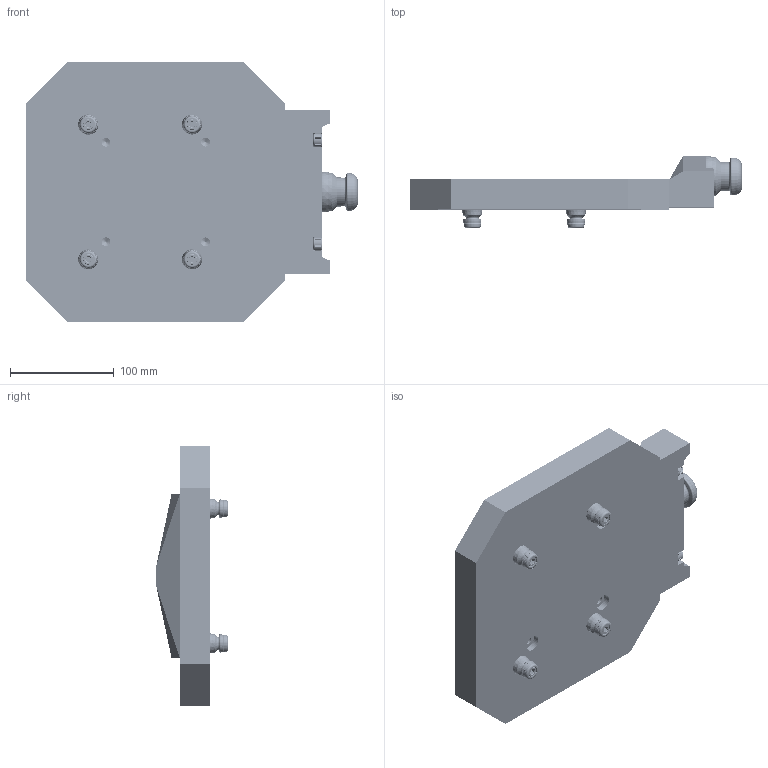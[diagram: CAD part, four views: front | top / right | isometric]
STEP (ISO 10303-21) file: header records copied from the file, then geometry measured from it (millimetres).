
FILE_DESCRIPTION (( 'STEP AP214' ), '1' );
FILE_NAME ('BPA-DN250 WEBSITE.STEP', '2026-08-31T16:53:40', ( '' ), ( '' ), 'SwSTEP 2.0', 'SolidWorks 2024', '' );
FILE_SCHEMA (( 'AUTOMOTIVE_DESIGN' ));
Length unit declared in the file: inch
Products named in the file (11): M10x020.DP_91595A640; 5AX-DNAWC-C; XSPA-40-16; M8X40.SHCS.12.9.BL_M8X40.SHCS.12.9.BL; XSPC-MINI-20; XSPA-MINI-20; BP-1DN250A; XSPB-MINI-20; BPA-DN250 WEBSITE; HW.M16X40.FTSS_HW.M16X40.FTSS; 76176_76176
Assembly tree (20 placements, depth 2):
  BPA-DN250 WEBSITE
    BP-1DN250A
    M8X40.SHCS.12.9.BL_M8X40.SHCS.12.9.BL  x6
    M10x020.DP_91595A640  x2
    HW.M16X40.FTSS_HW.M16X40.FTSS
    5AX-DNAWC-C
    XSPA-40-16
    XSPC-MINI-20  x2
    XSPB-MINI-20
    XSPA-MINI-20
    76176_76176  x4
Bounding box: 320 x 69.25 x 250 mm (x, y, z)
Volume: 1974516.1 mm3; surface area: 227559.8 mm2
Topology: 20 solids, 20 shells, 3676 faces, 10527 edges, 6940 vertices
Faces by surface type: plane 1230, cylinder 1204, torus 1053, cone 149, bspline 36, sphere 4
Full cylindrical faces by diameter (mm): 5 x4, 6.8 x10, 8 x132, 8.2 x4, 8.271 x6, 8.5 x4, 9 x6, 10 x6, 10.025 x2, 10.075 x2, 10.5 x4, 12 x4, 12.007 x4, 12.6 x6, 14 x5, 14.326 x11, 16.02 x4, 17.221 x1, 17.5 x4, 18.618 x1, 25 x1, 25.057 x1, 28 x1, 39.5 x1
Entity records: 48352 total; most frequent: CARTESIAN_POINT 28065, ORIENTED_EDGE 4232, DIRECTION 3629, EDGE_CURVE 2116, AXIS2_PLACEMENT_3D 1513, VERTEX_POINT 1477, EDGE_LOOP 1115, FACE_OUTER_BOUND 991
